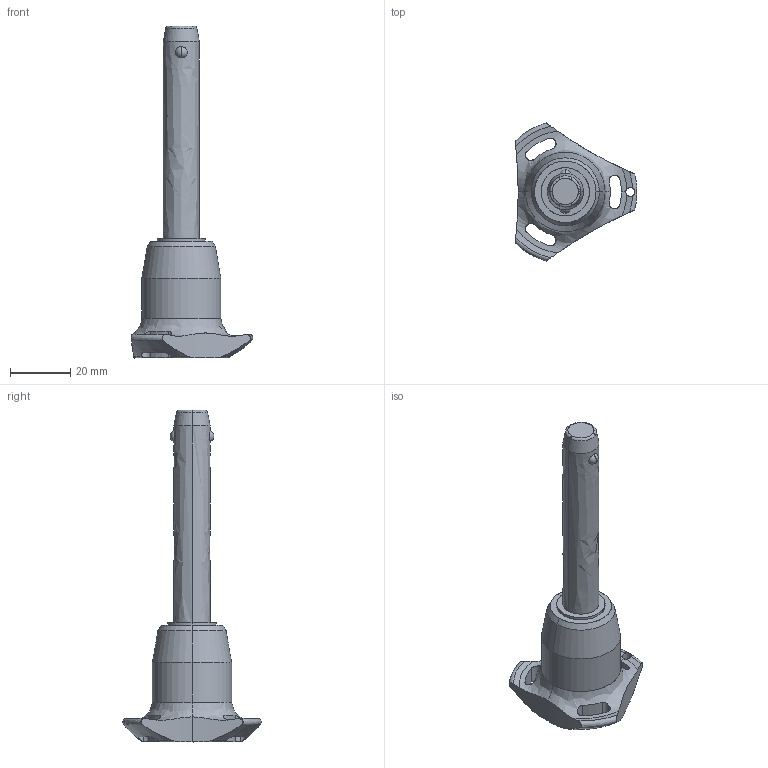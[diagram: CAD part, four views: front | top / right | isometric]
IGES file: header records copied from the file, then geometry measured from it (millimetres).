
Start section: SolidWorks IGES file using analytic representation for surfaces
Global section: file name: C:\Users\ianosborn\Desktop\QR1724_v2\QR1724_v2_20251112_IGES\QR1724.M12-060-S.igs; native system: SolidWorks 2019; preprocessor: SolidWorks 2019; author: IanOsborn; date: 251112.125904; units: millimetre
Bounding box: 40.5 x 45.88 x 110.3 mm (x, y, z)
Surface area: 8599.5 mm2 (no closed solid volume)
Topology: 0 solids, 0 shells, 65 faces, 1363 edges, 1359 vertices
Faces by surface type: revolution 50, bspline 15
